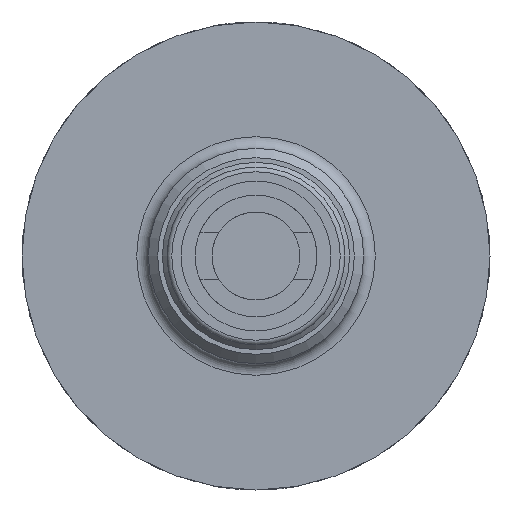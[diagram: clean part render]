
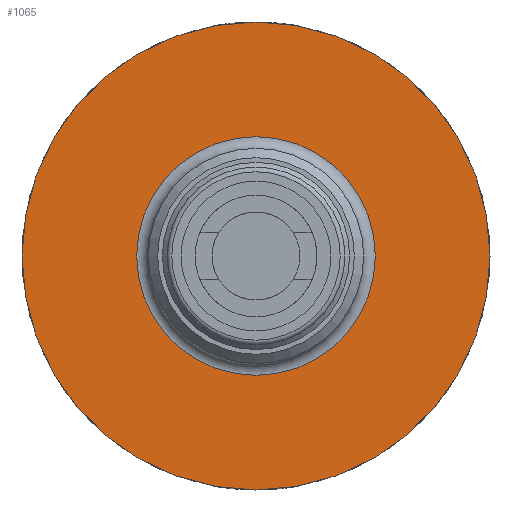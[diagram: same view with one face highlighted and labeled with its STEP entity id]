
A CAD part, front view. The second image highlights one B-rep face of the part: STEP entity #1065.
In plain terms, the highlighted planar face has unit normal (0, -1, 0).
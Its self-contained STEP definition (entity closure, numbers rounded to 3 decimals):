
#42=FACE_BOUND('',#311,.T.);
#69=PLANE('',#1201);
#247=FACE_OUTER_BOUND('',#310,.T.);
#310=EDGE_LOOP('',(#924,#925));
#311=EDGE_LOOP('',(#926,#927));
#386=CIRCLE('',#1189,50.);
#387=CIRCLE('',#1190,50.);
#388=CIRCLE('',#1192,25.5);
#393=CIRCLE('',#1197,25.5);
#502=VERTEX_POINT('',#1890);
#503=VERTEX_POINT('',#1891);
#504=VERTEX_POINT('',#1896);
#505=VERTEX_POINT('',#1897);
#647=EDGE_CURVE('',#502,#503,#386,.T.);
#648=EDGE_CURVE('',#503,#502,#387,.T.);
#650=EDGE_CURVE('',#504,#505,#388,.T.);
#655=EDGE_CURVE('',#505,#504,#393,.T.);
#924=ORIENTED_EDGE('',*,*,#647,.T.);
#925=ORIENTED_EDGE('',*,*,#648,.T.);
#926=ORIENTED_EDGE('',*,*,#650,.F.);
#927=ORIENTED_EDGE('',*,*,#655,.F.);
#1065=ADVANCED_FACE('',(#247,#42),#69,.T.);
#1189=AXIS2_PLACEMENT_3D('',#1892,#1465,#1466);
#1190=AXIS2_PLACEMENT_3D('',#1893,#1467,#1468);
#1192=AXIS2_PLACEMENT_3D('',#1898,#1472,#1473);
#1197=AXIS2_PLACEMENT_3D('',#1906,#1482,#1483);
#1201=AXIS2_PLACEMENT_3D('',#1913,#1491,#1492);
#1465=DIRECTION('center_axis',(0.,-1.,0.));
#1466=DIRECTION('ref_axis',(1.,0.,0.));
#1467=DIRECTION('center_axis',(0.,-1.,0.));
#1468=DIRECTION('ref_axis',(1.,0.,0.));
#1472=DIRECTION('center_axis',(0.,-1.,0.));
#1473=DIRECTION('ref_axis',(-1.,0.,0.));
#1482=DIRECTION('center_axis',(0.,-1.,0.));
#1483=DIRECTION('ref_axis',(-1.,0.,0.));
#1491=DIRECTION('center_axis',(0.,-1.,0.));
#1492=DIRECTION('ref_axis',(0.,0.,-1.));
#1890=CARTESIAN_POINT('',(50.,-38.,0.));
#1891=CARTESIAN_POINT('',(-50.,-38.,0.));
#1892=CARTESIAN_POINT('Origin',(0.,-38.,0.));
#1893=CARTESIAN_POINT('Origin',(0.,-38.,0.));
#1896=CARTESIAN_POINT('',(25.5,-38.,0.));
#1897=CARTESIAN_POINT('',(0.,-38.,25.5));
#1898=CARTESIAN_POINT('Origin',(0.,-38.,0.));
#1906=CARTESIAN_POINT('Origin',(0.,-38.,0.));
#1913=CARTESIAN_POINT('Origin',(23.,-38.,0.));
